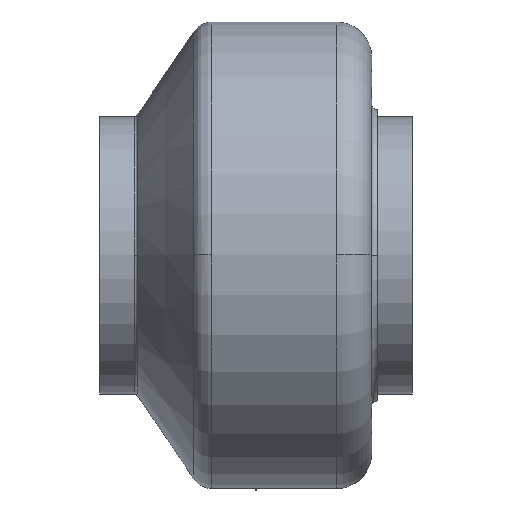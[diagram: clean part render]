
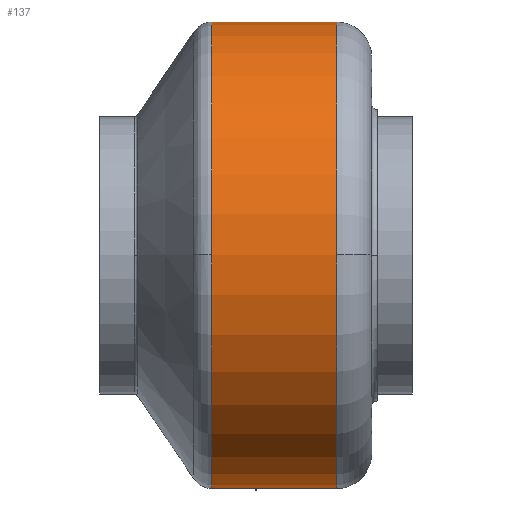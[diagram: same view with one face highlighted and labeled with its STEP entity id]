
A CAD part, top view. The second image highlights one B-rep face of the part: STEP entity #137.
In plain terms, the highlighted cylindrical face has radius 166.5 mm (diameter 333 mm), a partial arc.
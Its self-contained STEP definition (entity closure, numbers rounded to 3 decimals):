
#137=ADVANCED_FACE('',(#371),#372,.T.);
#371=FACE_OUTER_BOUND('',#737,.T.);
#372=CYLINDRICAL_SURFACE('',#738,166.5);
#737=EDGE_LOOP('',(#1113,#1114,#1115,#1116,#1117,#1118,#1119,#1120));
#738=AXIS2_PLACEMENT_3D('',#1121,#1122,#1123);
#1113=ORIENTED_EDGE('',*,*,#2128,.F.);
#1114=ORIENTED_EDGE('',*,*,#2129,.T.);
#1115=ORIENTED_EDGE('',*,*,#2130,.T.);
#1116=ORIENTED_EDGE('',*,*,#2131,.F.);
#1117=ORIENTED_EDGE('',*,*,#2132,.T.);
#1118=ORIENTED_EDGE('',*,*,#2133,.F.);
#1119=ORIENTED_EDGE('',*,*,#2134,.F.);
#1120=ORIENTED_EDGE('',*,*,#2124,.F.);
#1121=CARTESIAN_POINT('',(12.9,0.0,0.0));
#1122=DIRECTION('',(-1.0,0.0,0.0));
#1123=DIRECTION('',(0.0,1.0,0.0));
#2124=EDGE_CURVE('',#2538,#2540,#2541,.T.);
#2128=EDGE_CURVE('',#2546,#2538,#2547,.T.);
#2129=EDGE_CURVE('',#2546,#2548,#2549,.T.);
#2130=EDGE_CURVE('',#2548,#2550,#2551,.T.);
#2131=EDGE_CURVE('',#2552,#2550,#2553,.T.);
#2132=EDGE_CURVE('',#2552,#2554,#2555,.T.);
#2133=EDGE_CURVE('',#2556,#2554,#2557,.T.);
#2134=EDGE_CURVE('',#2540,#2556,#2558,.T.);
#2538=VERTEX_POINT('',#3144);
#2540=VERTEX_POINT('',#3146);
#2541=CIRCLE('',#3147,166.5);
#2546=VERTEX_POINT('',#3152);
#2547=LINE('',#3153,#3154);
#2548=VERTEX_POINT('',#3155);
#2549=CIRCLE('',#3156,166.5);
#2550=VERTEX_POINT('',#3157);
#2551=CIRCLE('',#3158,166.5);
#2552=VERTEX_POINT('',#3159);
#2553=LINE('',#3160,#3161);
#2554=VERTEX_POINT('',#3162);
#2555=B_SPLINE_CURVE_WITH_KNOTS('',3,(#3163,#3164,#3165,#3166,#3167,#3168,#3169,#3170,#3171,#3172,#3173,#3174,#3175,#3176,#3177,#3178,#3179,#3180,#3181,#3182,#3183,#3184,#3185,#3186,#3187,#3188,#3189,#3190,#3191,#3192,#3193,#3194,#3195,#3196,#3197,#3198,#3199,#3200,#3201,#3202,#3203,#3204,#3205,#3206,#3207,#3208,#3209,#3210,#3211,#3212,#3213,#3214,#3215,#3216,#3217,#3218,#3219,#3220),.UNSPECIFIED.,.F.,.F.,(4,2,2,2,2,2,2,2,2,2,2,2,2,2,2,2,2,2,2,2,2,2,2,2,2,2,2,2,4),(0.001,0.002,0.002,0.002,0.002,0.002,0.002,0.002,0.003,0.003,0.003,0.003,0.003,0.003,0.003,0.003,0.003,0.003,0.003,0.003,0.003,0.003,0.003,0.004,0.004,0.004,0.004,0.004,0.004),.UNSPECIFIED.);
#2556=VERTEX_POINT('',#3221);
#2557=LINE('',#3222,#3223);
#2558=CIRCLE('',#3224,166.5);
#3144=CARTESIAN_POINT('',(57.5,166.5,0.0));
#3146=CARTESIAN_POINT('',(57.5,0.,166.5));
#3147=AXIS2_PLACEMENT_3D('',#4258,#4259,#4260);
#3152=CARTESIAN_POINT('',(-31.7,166.5,0.0));
#3153=CARTESIAN_POINT('',(12.9,166.5,0.));
#3154=VECTOR('',#4267,1.0);
#3155=CARTESIAN_POINT('',(-31.7,0.,166.5));
#3156=AXIS2_PLACEMENT_3D('',#4268,#4269,#4270);
#3157=CARTESIAN_POINT('',(-31.7,-166.5,0.));
#3158=AXIS2_PLACEMENT_3D('',#4271,#4272,#4273);
#3159=CARTESIAN_POINT('',(-0.001,-166.5,0.));
#3160=CARTESIAN_POINT('',(12.9,-166.5,0.));
#3161=VECTOR('',#4274,1.0);
#3162=CARTESIAN_POINT('',(0.001,-166.5,0.));
#3163=CARTESIAN_POINT('',(-0.001,-166.5,0.));
#3164=CARTESIAN_POINT('',(-0.001,-166.5,0.));
#3165=CARTESIAN_POINT('',(-0.001,-166.5,0.));
#3166=CARTESIAN_POINT('',(-0.001,-166.5,0.));
#3167=CARTESIAN_POINT('',(-0.001,-166.5,0.));
#3168=CARTESIAN_POINT('',(-0.001,-166.5,0.));
#3169=CARTESIAN_POINT('',(-0.001,-166.5,0.001));
#3170=CARTESIAN_POINT('',(-0.001,-166.5,0.001));
#3171=CARTESIAN_POINT('',(-0.001,-166.5,0.001));
#3172=CARTESIAN_POINT('',(-0.001,-166.5,0.001));
#3173=CARTESIAN_POINT('',(-0.001,-166.5,0.001));
#3174=CARTESIAN_POINT('',(-0.001,-166.5,0.001));
#3175=CARTESIAN_POINT('',(-0.001,-166.5,0.001));
#3176=CARTESIAN_POINT('',(-0.001,-166.5,0.001));
#3177=CARTESIAN_POINT('',(0.,-166.5,0.001));
#3178=CARTESIAN_POINT('',(0.,-166.5,0.001));
#3179=CARTESIAN_POINT('',(0.,-166.5,0.001));
#3180=CARTESIAN_POINT('',(0.,-166.5,0.001));
#3181=CARTESIAN_POINT('',(0.,-166.5,0.001));
#3182=CARTESIAN_POINT('',(0.,-166.5,0.001));
#3183=CARTESIAN_POINT('',(0.,-166.5,0.001));
#3184=CARTESIAN_POINT('',(0.,-166.5,0.001));
#3185=CARTESIAN_POINT('',(0.,-166.5,0.001));
#3186=CARTESIAN_POINT('',(0.,-166.5,0.001));
#3187=CARTESIAN_POINT('',(0.,-166.5,0.001));
#3188=CARTESIAN_POINT('',(0.,-166.5,0.001));
#3189=CARTESIAN_POINT('',(0.,-166.5,0.001));
#3190=CARTESIAN_POINT('',(0.,-166.5,0.001));
#3191=CARTESIAN_POINT('',(0.,-166.5,0.001));
#3192=CARTESIAN_POINT('',(0.,-166.5,0.001));
#3193=CARTESIAN_POINT('',(0.,-166.5,0.001));
#3194=CARTESIAN_POINT('',(0.,-166.5,0.001));
#3195=CARTESIAN_POINT('',(0.,-166.5,0.001));
#3196=CARTESIAN_POINT('',(0.,-166.5,0.001));
#3197=CARTESIAN_POINT('',(0.,-166.5,0.001));
#3198=CARTESIAN_POINT('',(0.,-166.5,0.001));
#3199=CARTESIAN_POINT('',(0.,-166.5,0.001));
#3200=CARTESIAN_POINT('',(0.,-166.5,0.001));
#3201=CARTESIAN_POINT('',(0.,-166.5,0.001));
#3202=CARTESIAN_POINT('',(0.,-166.5,0.001));
#3203=CARTESIAN_POINT('',(0.,-166.5,0.001));
#3204=CARTESIAN_POINT('',(0.,-166.5,0.001));
#3205=CARTESIAN_POINT('',(0.,-166.5,0.001));
#3206=CARTESIAN_POINT('',(0.,-166.5,0.001));
#3207=CARTESIAN_POINT('',(0.,-166.5,0.001));
#3208=CARTESIAN_POINT('',(0.,-166.5,0.001));
#3209=CARTESIAN_POINT('',(0.001,-166.5,0.001));
#3210=CARTESIAN_POINT('',(0.001,-166.5,0.001));
#3211=CARTESIAN_POINT('',(0.001,-166.5,0.));
#3212=CARTESIAN_POINT('',(0.001,-166.5,0.));
#3213=CARTESIAN_POINT('',(0.001,-166.5,0.));
#3214=CARTESIAN_POINT('',(0.001,-166.5,0.));
#3215=CARTESIAN_POINT('',(0.001,-166.5,0.));
#3216=CARTESIAN_POINT('',(0.001,-166.5,0.));
#3217=CARTESIAN_POINT('',(0.001,-166.5,0.));
#3218=CARTESIAN_POINT('',(0.001,-166.5,0.));
#3219=CARTESIAN_POINT('',(0.001,-166.5,0.));
#3220=CARTESIAN_POINT('',(0.001,-166.5,0.));
#3221=CARTESIAN_POINT('',(57.5,-166.5,0.));
#3222=CARTESIAN_POINT('',(12.9,-166.5,0.));
#3223=VECTOR('',#4275,1.0);
#3224=AXIS2_PLACEMENT_3D('',#4276,#4277,#4278);
#4258=CARTESIAN_POINT('',(57.5,0.0,0.0));
#4259=DIRECTION('',(1.0,0.0,0.0));
#4260=DIRECTION('',(0.0,1.0,0.0));
#4267=DIRECTION('',(1.0,0.0,0.0));
#4268=CARTESIAN_POINT('',(-31.7,0.0,0.0));
#4269=DIRECTION('',(1.0,0.0,0.0));
#4270=DIRECTION('',(0.0,1.0,0.0));
#4271=CARTESIAN_POINT('',(-31.7,0.0,0.0));
#4272=DIRECTION('',(1.0,0.0,0.0));
#4273=DIRECTION('',(0.0,1.0,0.0));
#4274=DIRECTION('',(-1.0,-0.0,-0.0));
#4275=DIRECTION('',(-1.0,-0.0,-0.0));
#4276=CARTESIAN_POINT('',(57.5,0.0,0.0));
#4277=DIRECTION('',(1.0,0.0,0.0));
#4278=DIRECTION('',(0.0,1.0,0.0));
